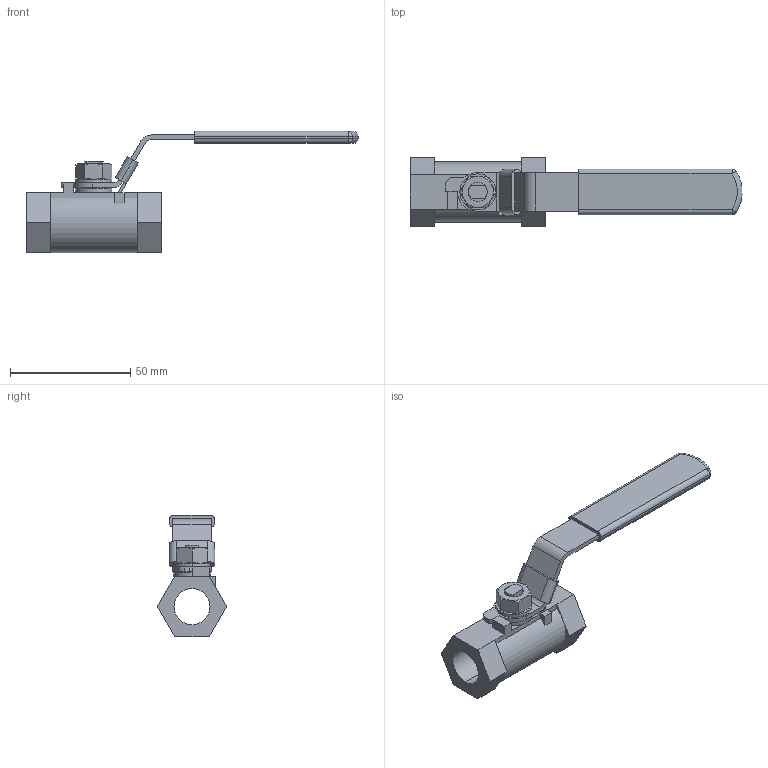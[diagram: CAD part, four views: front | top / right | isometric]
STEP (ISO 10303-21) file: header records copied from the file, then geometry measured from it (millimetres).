
FILE_DESCRIPTION( (''), '2;1');
FILE_NAME ('PC1276.13404.BLV-1S 15A_17433.stp','2025-09-19T13:28:45',(''),(''),'spGate 20.6.3 (****-****-****-****)','','');
FILE_SCHEMA (('AUTOMOTIVE_DESIGN'));
Length unit declared in the file: millimetre
Products named in the file (5): Assembly; CP_''_JIS B 1256 小形-部品等級A 8''_17239; BLV-1S 15A 本体; CP_''_JIS B 1181 六角ナット 2種 上 ''_700; BLV-1S ハンドル 15A
Assembly tree (6 placements, depth 2):
  Assembly
    CP_''_JIS B 1256 小形-部品等級A 8''_17239  x3
    BLV-1S 15A 本体
    CP_''_JIS B 1181 六角ナット 2種 上 ''_700
    BLV-1S ハンドル 15A
Bounding box: 138.2 x 28.87 x 50.5 mm (x, y, z)
Volume: 29591.4 mm3; surface area: 16055.3 mm2
Topology: 6 solids, 6 shells, 142 faces, 344 edges, 214 vertices
Faces by surface type: plane 84, cylinder 40, bspline 14, sphere 4
Entity records: 6642 total; most frequent: CARTESIAN_POINT 888, DIRECTION 636, ORIENTED_EDGE 632, COLOUR_RGB 450, PRESENTATION_STYLE_ASSIGNMENT 450, STYLED_ITEM 450, EDGE_CURVE 316, DRAUGHTING_PRE_DEFINED_CURVE_FONT 316
